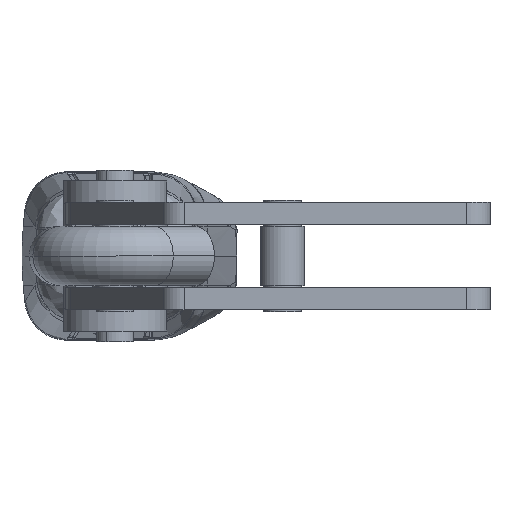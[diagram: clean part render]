
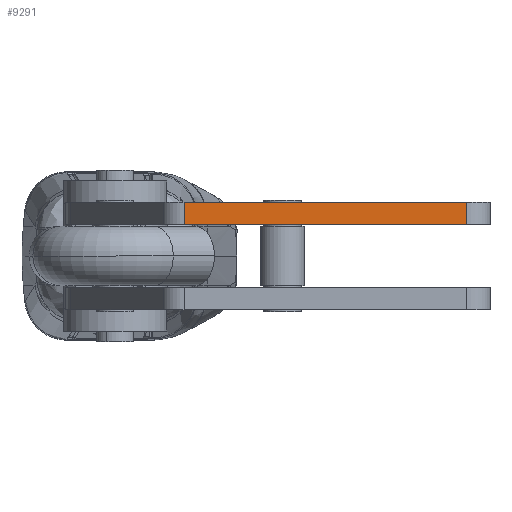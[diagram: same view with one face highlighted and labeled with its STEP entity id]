
A CAD part, left-side view. The second image highlights one B-rep face of the part: STEP entity #9291.
In plain terms, the highlighted planar face has unit normal (-1, 0, 0).
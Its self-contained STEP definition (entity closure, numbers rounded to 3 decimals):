
#735 = VERTEX_POINT ( 'NONE', #13219 ) ;
#879 = ORIENTED_EDGE ( 'NONE', *, *, #14284, .F. ) ;
#1636 = VECTOR ( 'NONE', #16868, 1000. ) ;
#3004 = VERTEX_POINT ( 'NONE', #4290 ) ;
#3479 = CARTESIAN_POINT ( 'NONE',  ( -27., 65.268, -4.75 ) ) ;
#3728 = LINE ( 'NONE', #20678, #4271 ) ;
#4271 = VECTOR ( 'NONE', #8993, 1000. ) ;
#4290 = CARTESIAN_POINT ( 'NONE',  ( -27., 5., 0. ) ) ;
#5087 = VECTOR ( 'NONE', #10265, 1000. ) ;
#5167 = AXIS2_PLACEMENT_3D ( 'NONE', #7787, #19477, #9489 ) ;
#5506 = EDGE_LOOP ( 'NONE', ( #879, #14675, #19241, #12775 ) ) ;
#6002 = EDGE_CURVE ( 'NONE', #10758, #735, #3728, .T. ) ;
#6993 = EDGE_CURVE ( 'NONE', #10758, #18818, #10045, .T. ) ;
#7423 = LINE ( 'NONE', #20802, #7974 ) ;
#7787 = CARTESIAN_POINT ( 'NONE',  ( -27., 5., -4.75 ) ) ;
#7974 = VECTOR ( 'NONE', #12475, 1000. ) ;
#8436 = FACE_OUTER_BOUND ( 'NONE', #5506, .T. ) ;
#8993 = DIRECTION ( 'NONE',  ( 0., -1., 0. ) ) ;
#9291 = ADVANCED_FACE ( 'NONE', ( #8436 ), #12772, .T. ) ;
#9489 = DIRECTION ( 'NONE',  ( 0., -1., 0. ) ) ;
#9584 = LINE ( 'NONE', #20259, #5087 ) ;
#10045 = LINE ( 'NONE', #3479, #1636 ) ;
#10265 = DIRECTION ( 'NONE',  ( 0., 0., 1. ) ) ;
#10758 = VERTEX_POINT ( 'NONE', #19516 ) ;
#12475 = DIRECTION ( 'NONE',  ( 0., -1., 0. ) ) ;
#12772 = PLANE ( 'NONE',  #5167 ) ;
#12775 = ORIENTED_EDGE ( 'NONE', *, *, #13265, .T. ) ;
#13219 = CARTESIAN_POINT ( 'NONE',  ( -27., 5., -4.75 ) ) ;
#13265 = EDGE_CURVE ( 'NONE', #735, #3004, #9584, .T. ) ;
#14238 = CARTESIAN_POINT ( 'NONE',  ( -27., 65.268, 0. ) ) ;
#14284 = EDGE_CURVE ( 'NONE', #18818, #3004, #7423, .T. ) ;
#14675 = ORIENTED_EDGE ( 'NONE', *, *, #6993, .F. ) ;
#16868 = DIRECTION ( 'NONE',  ( 0., 0., 1. ) ) ;
#18818 = VERTEX_POINT ( 'NONE', #14238 ) ;
#19241 = ORIENTED_EDGE ( 'NONE', *, *, #6002, .T. ) ;
#19477 = DIRECTION ( 'NONE',  ( -1., 0., 0. ) ) ;
#19516 = CARTESIAN_POINT ( 'NONE',  ( -27., 65.268, -4.75 ) ) ;
#20259 = CARTESIAN_POINT ( 'NONE',  ( -27., 5., -4.75 ) ) ;
#20678 = CARTESIAN_POINT ( 'NONE',  ( -27., 5., -4.75 ) ) ;
#20802 = CARTESIAN_POINT ( 'NONE',  ( -27., 5., 0. ) ) ;
